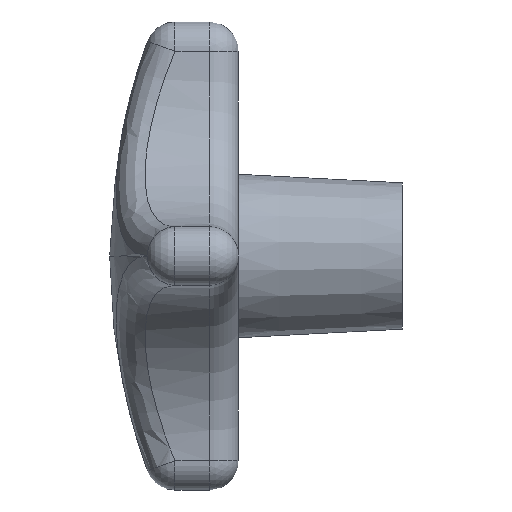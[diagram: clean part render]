
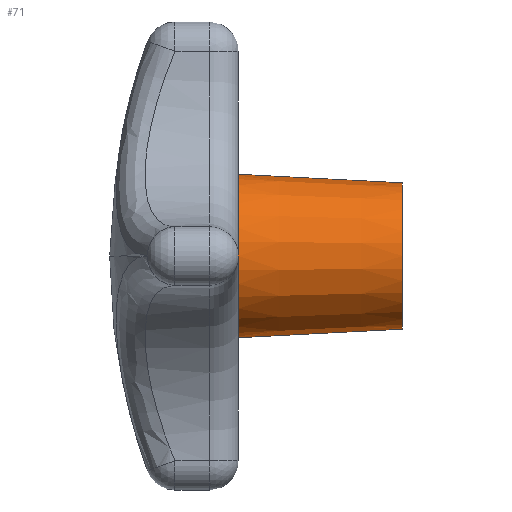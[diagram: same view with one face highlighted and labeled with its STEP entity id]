
A CAD part, left-side view. The second image highlights one B-rep face of the part: STEP entity #71.
In plain terms, the highlighted conical face has half-angle 3 degrees and reference radius 12.5 mm.
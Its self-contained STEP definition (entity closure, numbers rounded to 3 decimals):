
#40 = ORIENTED_EDGE ( 'NONE', *, *, #255, .T. ) ;
#47 = ORIENTED_EDGE ( 'NONE', *, *, #72, .F. ) ;
#55 = ORIENTED_EDGE ( 'NONE', *, *, #56, .T. ) ;
#56 = EDGE_CURVE ( 'NONE', #211, #147, #3463, .T. ) ;
#67 = ORIENTED_EDGE ( 'NONE', *, *, #214, .F. ) ;
#70 = EDGE_LOOP ( 'NONE', ( #67, #55, #40, #47 ) ) ;
#71 = ADVANCED_FACE ( 'NONE', ( #3513 ), #3487, .T. ) ;
#72 = EDGE_CURVE ( 'NONE', #201, #202, #3535, .T. ) ;
#147 = VERTEX_POINT ( 'NONE', #647 ) ;
#201 = VERTEX_POINT ( 'NONE', #703 ) ;
#202 = VERTEX_POINT ( 'NONE', #702 ) ;
#211 = VERTEX_POINT ( 'NONE', #694 ) ;
#214 = EDGE_CURVE ( 'NONE', #211, #201, #683, .T. ) ;
#255 = EDGE_CURVE ( 'NONE', #147, #202, #800, .T. ) ;
#647 = CARTESIAN_POINT ( 'NONE',  ( 0., -28., 12.5 ) ) ;
#680 = DIRECTION ( 'NONE',  ( 0., 0.999, -0.052 ) ) ;
#681 = VECTOR ( 'NONE', #680, 1000. ) ;
#682 = CARTESIAN_POINT ( 'NONE',  ( 0., -28., -12.5 ) ) ;
#683 = LINE ( 'NONE', #682, #681 ) ;
#694 = CARTESIAN_POINT ( 'NONE',  ( 0., -28., -12.5 ) ) ;
#702 = CARTESIAN_POINT ( 'NONE',  ( 0., 0., 13.967 ) ) ;
#703 = CARTESIAN_POINT ( 'NONE',  ( 0., 0., -13.967 ) ) ;
#791 = DIRECTION ( 'NONE',  ( 0., 0.999, 0.052 ) ) ;
#792 = VECTOR ( 'NONE', #791, 1000. ) ;
#793 = CARTESIAN_POINT ( 'NONE',  ( 0., -28., 12.5 ) ) ;
#800 = LINE ( 'NONE', #793, #792 ) ;
#3337 = AXIS2_PLACEMENT_3D ( 'NONE', #3340, #3339, #3379 ) ;
#3339 = DIRECTION ( 'NONE',  ( 0., 1., 0. ) ) ;
#3340 = CARTESIAN_POINT ( 'NONE',  ( 0., -28., 0. ) ) ;
#3379 = DIRECTION ( 'NONE',  ( 0., 0., 1. ) ) ;
#3443 = CARTESIAN_POINT ( 'NONE',  ( 0., -28., 0. ) ) ;
#3460 = DIRECTION ( 'NONE',  ( 0., 0., 1. ) ) ;
#3461 = DIRECTION ( 'NONE',  ( 0., 1., 0. ) ) ;
#3462 = AXIS2_PLACEMENT_3D ( 'NONE', #3443, #3461, #3460 ) ;
#3463 = CIRCLE ( 'NONE', #3462, 12.5 ) ;
#3487 = CONICAL_SURFACE ( 'NONE', #3337, 12.5, 0.052 ) ;
#3513 = FACE_OUTER_BOUND ( 'NONE', #70, .T. ) ;
#3526 = DIRECTION ( 'NONE',  ( 0., 0., 1. ) ) ;
#3527 = DIRECTION ( 'NONE',  ( 0., 1., 0. ) ) ;
#3532 = CARTESIAN_POINT ( 'NONE',  ( 0., 0., 0. ) ) ;
#3535 = CIRCLE ( 'NONE', #3536, 13.967 ) ;
#3536 = AXIS2_PLACEMENT_3D ( 'NONE', #3532, #3527, #3526 ) ;
